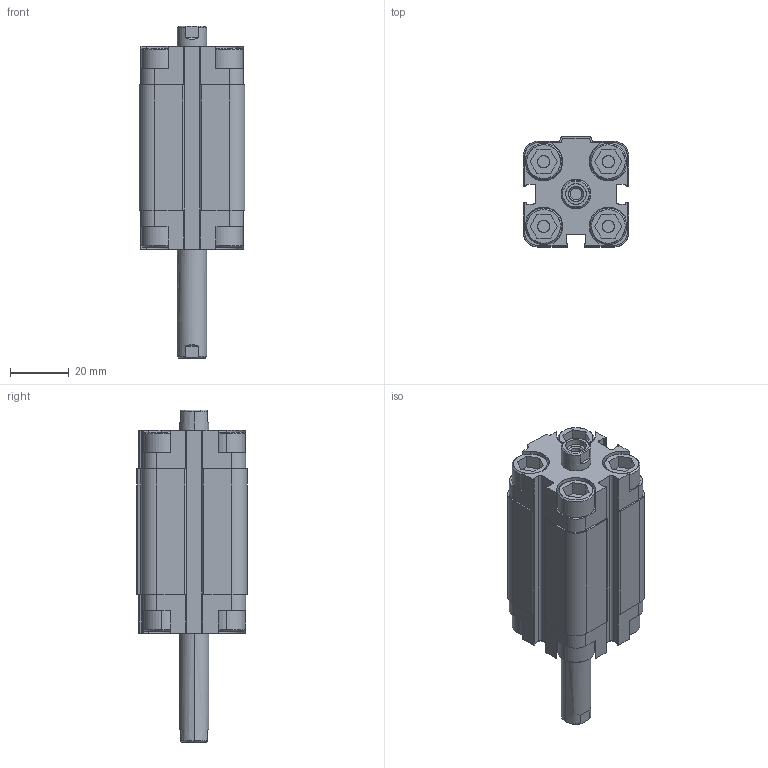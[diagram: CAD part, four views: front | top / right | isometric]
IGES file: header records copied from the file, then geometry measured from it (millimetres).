
Start section: SolidWorks IGES file using analytic representation for surfaces
Global section: file name: K:\Disegni Esecutivi\Cilindri\2_DISEGNI_cilindri_in_produzione\5_Cilindri Compatti\complessivicompatti\QJ\QJ020\QJ020_PARTE\QJ020_IGES\J020_IGES\QJ0200030A.igs; native system: SolidWorks 2011; preprocessor: SolidWorks 2011; author: Cad01; date: 110922.095642; units: millimetre
Bounding box: 36 x 37.5 x 113 mm (x, y, z)
Surface area: 20643.4 mm2 (no closed solid volume)
Topology: 0 solids, 0 shells, 334 faces, 3936 edges, 3936 vertices
Faces by surface type: bspline 194, revolution 140
